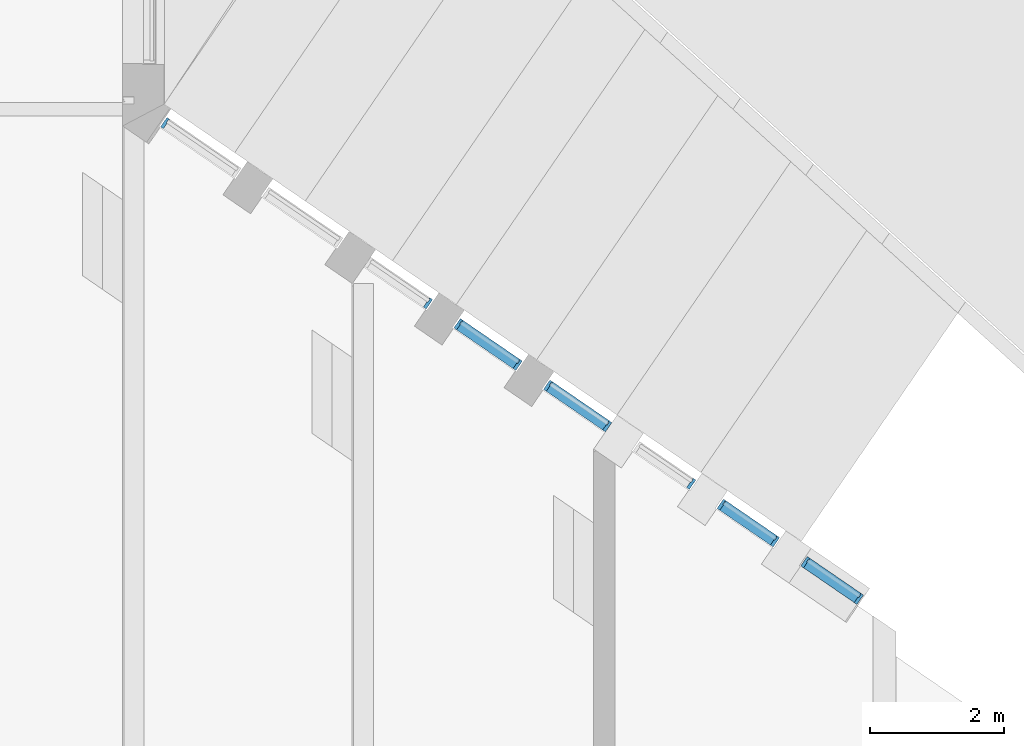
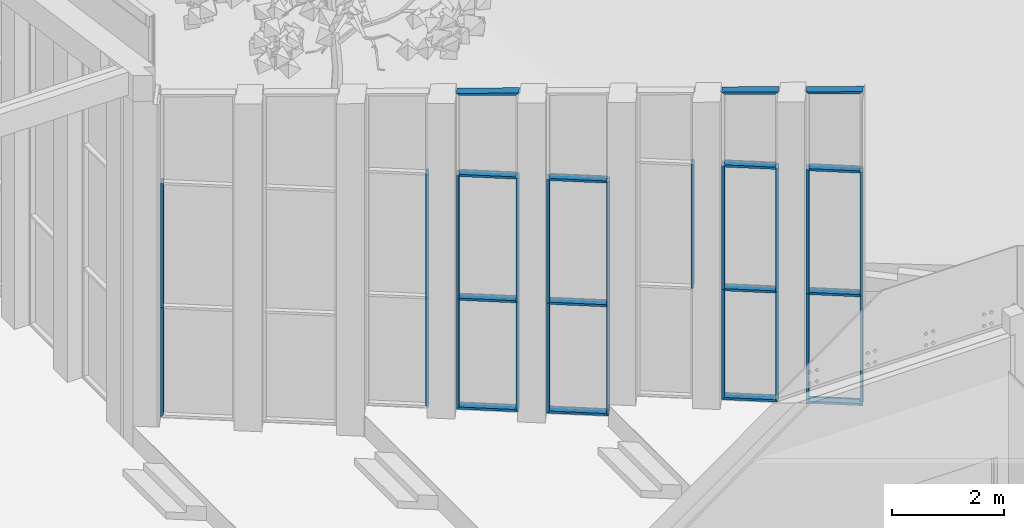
# One storey, part 9 of 246: 36 members, 7 elements without a shape of their own.
"""IFC2X3 building model written with IfcOpenShell, lengths in millimetres."""

from ifc_helpers import new_model, entity, si_unit, converted_unit, derived_unit, money_unit, direction, frame, origin_with_axes, place, context, subcontext, project, spatial, faceted_brep, source, transform, mapped, material, type_object, element, aggregate, save


model = new_model("IFC2X3")

# Units and contexts
model_context = context("Model", 3, precision=0.01, world=origin_with_axes(), true_north=direction((0.0, 1.0)))
body_context = subcontext(model_context, "Body", "Model", "MODEL_VIEW")
ifc_project = project(units=[si_unit("LENGTHUNIT", "METRE", prefix="MILLI"), si_unit("AREAUNIT", "SQUARE_METRE"), si_unit("VOLUMEUNIT", "CUBIC_METRE"), converted_unit("PLANEANGLEUNIT", "DEGREE", entity("IfcPlaneAngleMeasure", 0.0174532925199), si_unit("PLANEANGLEUNIT", "RADIAN"), dimensions=[0, 0, 0, 0, 0, 0, 0]), si_unit("SOLIDANGLEUNIT", "STERADIAN"), money_unit("EUR"), converted_unit("TIMEUNIT", "Year", entity("IfcTimeMeasure", 31556926.0), si_unit("TIMEUNIT", "SECOND"), dimensions=[0, 0, 1, 0, 0, 0, 0]), si_unit("MASSUNIT", "GRAM", prefix="KILO"), si_unit("THERMODYNAMICTEMPERATUREUNIT", "DEGREE_CELSIUS"), si_unit("LUMINOUSINTENSITYUNIT", "LUMEN"), si_unit("ENERGYUNIT", "JOULE", prefix="MEGA"), derived_unit("THERMALCONDUCTANCEUNIT", [(si_unit("POWERUNIT", "WATT"), 1), (si_unit("LENGTHUNIT", "METRE"), -1), (si_unit("THERMODYNAMICTEMPERATUREUNIT", "KELVIN"), -1)]), derived_unit("SPECIFICHEATCAPACITYUNIT", [(si_unit("ENERGYUNIT", "JOULE"), 1), (si_unit("MASSUNIT", "GRAM", prefix="KILO"), -1), (si_unit("THERMODYNAMICTEMPERATUREUNIT", "KELVIN"), -1)]), derived_unit("MASSDENSITYUNIT", [(si_unit("MASSUNIT", "GRAM", prefix="KILO"), 1), (si_unit("VOLUMEUNIT", "CUBIC_METRE"), -1)])], contexts=[model_context])

# Site, building, storey
site_placement = place(None, origin_with_axes())
site = spatial("IfcSite", under=ifc_project, at=site_placement, Name="L.Koidula tn 11b", CompositionType="ELEMENT")
building_placement = place(site_placement, origin_with_axes())
building = spatial("IfcBuilding", under=site, at=building_placement, Name="Rakvere Riigigümnaasium", CompositionType="ELEMENT")
storey_placement = place(building_placement, origin_with_axes())
storey = spatial("IfcBuildingStorey", under=building, at=storey_placement, Name="1.korrus 0,00", CompositionType="ELEMENT", Elevation=0.0)

# Curtain wall, member
curtain_wall_type = type_object("IfcCurtainWallType", Name="Curtain Wall Type", PredefinedType="NOTDEFINED")
curtain_wall_1_placement = place(storey_placement, frame((48188.9005026, 43426.6609741, 465.0), z_axis=(0.0, 0.0, 1.0), x_axis=(1.0, 0.0, 0.0)))
curtain_wall_1 = element("IfcCurtainWall", 1, at=curtain_wall_1_placement, inside=storey, type_object=curtain_wall_type, Name="KLF-06-29")
ifc_material = material(Name="Alumiiniumprofiil (RAL 7021)")
member_type_1 = type_object("IfcMemberType", Name="Boundary Frame 50 x 170", PredefinedType="MULLION")
shared_shape_1 = source(origin_with_axes(), body_context, "Body", "Brep", [
    faceted_brep([(-37.0, -26.0, 2700.00000012), (-50.0, -26.0, 2700.00000012), (-50.0, -124.0, 2700.00000012), (0.0, -124.0, 2700.00000012), (0.0, 46.0, 2700.00000012), (-50.0, 46.0, 2700.00000012), (-50.0, 26.0, 2700.00000012), (-37.0, 26.0, 2700.00000012), (-37.0, -26.0, -5.18836085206e-07), (-50.0, -26.0, -5.18836307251e-07), (-50.0, -124.0, -5.18836307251e-07), (0.0, -124.0, -5.18836307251e-07), (0.0, 46.0, -5.18836307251e-07), (-50.0, 46.0, -5.18836307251e-07), (-50.0, 26.0, -5.18836307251e-07), (-37.0, 26.0, -5.18836085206e-07)], [[[0, 1, 2, 3, 4, 5, 6, 7]], [[0, 8, 9, 1]], [[9, 10, 2, 1]], [[10, 11, 3, 2]], [[11, 12, 4, 3]], [[12, 13, 5, 4]], [[6, 5, 13, 14]], [[14, 15, 7, 6]], [[7, 15, 8, 0]], [[8, 15, 14, 13, 12, 11, 10, 9]]]),
])
member_1_placement = place(curtain_wall_1_placement, frame((-552.526290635, 378.965110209, 5100.0), z_axis=(-3.23467396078e-08, 2.21858890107e-08, -1.0), x_axis=(0.824666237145, -0.565619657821, -3.9224038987e-08)))
member_1 = element("IfcMember", 2, at=member_1_placement, type_object=member_type_1, material=ifc_material, Name="KLF-06-52-Profiilid", ObjectType="MULLION", context=body_context, shape_type="MappedRepresentation", body=[
    mapped(shared_shape_1, transform((0.0, 0.0, 0.0), x_axis=(-1.0, 0.0, 3.92240388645e-08), y_axis=(0.0, -1.0, 0.0), z_axis=(3.92240388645e-08, 0.0, 1.0))),
])

curtain_wall_2_placement = place(storey_placement, frame((51132.8497103, 41407.4731801, 929.821783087), z_axis=(0.0, 0.0, 1.0), x_axis=(1.0, 0.0, 0.0)))
curtain_wall_2 = element("IfcCurtainWall", 3, at=curtain_wall_2_placement, inside=storey, type_object=curtain_wall_type, Name="KLF-06-27")
member_2_placement = place(curtain_wall_2_placement, frame((461.813017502, -316.746956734, 2400.0000654), z_axis=(-8.02867764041e-09, 5.50668514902e-09, 1.0), x_axis=(-0.824666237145, 0.565619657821, -9.73566874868e-09)))
member_2 = element("IfcMember", 4, at=member_2_placement, type_object=member_type_1, material=ifc_material, Name="KLF-06-45-Profiilid", ObjectType="MULLION", context=body_context, shape_type="MappedRepresentation", body=[
    mapped(shared_shape_1, transform((0.0, 0.0, 0.0), x_axis=(-1.0, 0.0, -9.73566874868e-09), y_axis=(0.0, -1.0, 0.0), z_axis=(-9.73566874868e-09, 0.0, 1.0))),
])

curtain_wall_3_placement = place(storey_placement, frame((52468.8871131, 40491.1147045, 929.82179112), z_axis=(0.0, 0.0, 1.0), x_axis=(1.0, 0.0, 0.0)))
curtain_wall_3 = element("IfcCurtainWall", 5, at=curtain_wall_3_placement, inside=storey, type_object=curtain_wall_type, Name="KLF-06-26")
member_3_placement = place(curtain_wall_3_placement, frame((461.813622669, -316.746250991, 2400.00005736), z_axis=(-1.18364024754e-08, 8.11828760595e-09, 1.0), x_axis=(-0.824667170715, 0.565618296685, -1.43529445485e-08)))
member_3 = element("IfcMember", 6, at=member_3_placement, type_object=member_type_1, material=ifc_material, Name="KLF-06-44-Profiilid", ObjectType="MULLION", context=body_context, shape_type="MappedRepresentation", body=[
    mapped(shared_shape_1, transform((0.0, 0.0, 0.0), x_axis=(-1.0, 0.0, -1.43529445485e-08), y_axis=(0.0, -1.0, 0.0), z_axis=(-1.43529445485e-08, 0.0, 1.0))),
])

curtain_wall_4_placement = place(storey_placement, frame((53804.0228659, 39575.3763588, 929.821791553), z_axis=(0.0, 0.0, 1.0), x_axis=(1.0, 0.0, 0.0)))
curtain_wall_4 = element("IfcCurtainWall", 7, at=curtain_wall_4_placement, inside=storey, type_object=curtain_wall_type, Name="KLF-06-25")
member_4_placement = place(curtain_wall_4_placement, frame((461.813617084, -316.747367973, 2400.00005693), z_axis=(9.66272592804e-09, -6.62743999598e-09, 1.0), x_axis=(-0.824666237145, 0.565619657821, 1.17171341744e-08)))
member_4 = element("IfcMember", 8, at=member_4_placement, type_object=member_type_1, material=ifc_material, Name="KLF-06-51-Profiilid", ObjectType="MULLION", context=body_context, shape_type="MappedRepresentation", body=[
    mapped(shared_shape_1, transform((0.0, 0.0, 0.0), x_axis=(-1.0, 0.0, 1.17171341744e-08), y_axis=(0.0, -1.0, 0.0), z_axis=(1.17171341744e-08, 0.0, 1.0))),
])

curtain_wall_5_placement = place(storey_placement, frame((55097.3440674, 38688.315244, 1395.00000109), z_axis=(0.0, 0.0, 1.0), x_axis=(1.0, 0.0, 0.0)))
curtain_wall_5 = element("IfcCurtainWall", 9, at=curtain_wall_5_placement, inside=storey, type_object=curtain_wall_type, Name="KLF-06-24")
member_5_placement = place(curtain_wall_5_placement, frame((418.476266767, -287.02327336, 2400.00005693), z_axis=(-9.22828619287e-05, 6.32946984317e-05, 0.999999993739), x_axis=(-0.824666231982, 0.565619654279, -0.000111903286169)))
member_5 = element("IfcMember", 10, at=member_5_placement, type_object=member_type_1, material=ifc_material, Name="KLF-06-42-Profiilid", ObjectType="MULLION", context=body_context, shape_type="MappedRepresentation", body=[
    mapped(shared_shape_1, transform((0.0, 0.0, 0.0), x_axis=(-1.0, 0.0, 0.0), y_axis=(0.0, -1.0, 0.0), z_axis=(0.0, 0.0, 1.0))),
])
aggregate(curtain_wall_5, [member_5])

# Curtain wall, members
curtain_wall_6_placement = place(storey_placement, frame((57595.8829175, 36974.6265181, 1395.00000109), z_axis=(0.0, 0.0, 1.0), x_axis=(1.0, 0.0, 0.0)))
curtain_wall_6 = element("IfcCurtainWall", 11, at=curtain_wall_6_placement, inside=storey, type_object=curtain_wall_type, Name="KLF-06-22")
member_6_placement = place(curtain_wall_6_placement, frame((-418.518122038, 287.051980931, 5100.00005693), z_axis=(0.0, 0.0, -1.0), x_axis=(0.824666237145, -0.565619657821, 0.0)))
member_6 = element("IfcMember", 12, at=member_6_placement, type_object=member_type_1, material=ifc_material, Name="KLF-06-45-Profiilid", ObjectType="MULLION", context=body_context, shape_type="MappedRepresentation", body=[
    mapped(shared_shape_1, transform((0.0, 0.0, 0.0), x_axis=(-1.0, 0.0, 0.0), y_axis=(0.0, -1.0, 0.0), z_axis=(0.0, 0.0, 1.0))),
])
member_7_placement = place(curtain_wall_6_placement, frame((418.518130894, -287.051987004, 2400.00005693), z_axis=(-6.55946210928e-09, 4.49898291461e-09, 1.0), x_axis=(-0.824666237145, 0.565619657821, -7.95408011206e-09)))
member_7 = element("IfcMember", 13, at=member_7_placement, type_object=member_type_1, material=ifc_material, Name="KLF-06-41-Profiilid", ObjectType="MULLION", context=body_context, shape_type="MappedRepresentation", body=[
    mapped(shared_shape_1, transform((0.0, 0.0, 0.0), x_axis=(-1.0, 0.0, -7.95408011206e-09), y_axis=(0.0, -1.0, 0.0), z_axis=(-7.95408011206e-09, 0.0, 1.0))),
])

curtain_wall_7_placement = place(storey_placement, frame((56346.8798402, 37831.2873164, 1395.00000109), z_axis=(0.0, 0.0, 1.0), x_axis=(1.0, 0.0, 0.0)))
curtain_wall_7 = element("IfcCurtainWall", 14, at=curtain_wall_7_placement, inside=storey, type_object=curtain_wall_type, Name="KLF-06-23")
member_8_placement = place(curtain_wall_7_placement, frame((-418.518145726, 287.051997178, 5100.00005693), z_axis=(0.0, 0.0, -1.0), x_axis=(0.824666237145, -0.565619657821, 0.0)))
member_8 = element("IfcMember", 15, at=member_8_placement, type_object=member_type_1, material=ifc_material, Name="KLF-06-46-Profiilid", ObjectType="MULLION", context=body_context, shape_type="MappedRepresentation", body=[
    mapped(shared_shape_1, transform((0.0, 0.0, 0.0), x_axis=(-1.0, 0.0, 0.0), y_axis=(0.0, -1.0, 0.0), z_axis=(0.0, 0.0, 1.0))),
])
member_9_placement = place(curtain_wall_7_placement, frame((418.518130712, -287.051986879, 2400.00005693), z_axis=(1.11218754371e-08, -7.62823943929e-09, 1.0), x_axis=(-0.824666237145, 0.565619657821, 1.34865173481e-08)))
member_9 = element("IfcMember", 16, at=member_9_placement, type_object=member_type_1, material=ifc_material, Name="KLF-06-42-Profiilid", ObjectType="MULLION", context=body_context, shape_type="MappedRepresentation", body=[
    mapped(shared_shape_1, transform((0.0, 0.0, 0.0), x_axis=(-1.0, 0.0, 1.34865173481e-08), y_axis=(0.0, -1.0, 0.0), z_axis=(1.34865173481e-08, 0.0, 1.0))),
])

# Member
shared_shape_2 = source(origin_with_axes(), body_context, "Body", "Brep", [
    faceted_brep([(-37.0, -26.0, 2400.00000019), (-50.0, -26.0, 2400.00000019), (-50.0, -124.0, 2400.00000019), (0.0, -124.0, 2400.00000019), (0.0, 46.0, 2400.00000019), (-50.0, 46.0, 2400.00000019), (-50.0, 26.0, 2400.00000019), (-37.0, 26.0, 2400.00000019), (-37.0, -26.0, 37.0), (-50.0, -26.0, 50.0), (-50.0, -124.0, 50.0), (0.0, -124.0, 0.0), (0.0, 46.0, 0.0), (-50.0, 46.0, 50.0), (-50.0, 26.0, 50.0), (-37.0, 26.0, 37.0)], [[[0, 1, 2, 3, 4, 5, 6, 7]], [[0, 8, 9, 1]], [[9, 10, 2, 1]], [[2, 10, 11, 3]], [[3, 11, 12, 4]], [[4, 12, 13, 5]], [[6, 5, 13, 14]], [[14, 15, 7, 6]], [[7, 15, 8, 0]], [[8, 15, 14, 13, 12, 11, 10, 9]]]),
])
member_10_placement = place(curtain_wall_2_placement, frame((461.813017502, -316.746956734, 0.0), z_axis=(0.0, 0.0, 1.0), x_axis=(-0.824666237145, 0.565619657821, 0.0)))
member_10 = element("IfcMember", 17, at=member_10_placement, type_object=member_type_1, material=ifc_material, Name="KLF-06-44-Profiilid", ObjectType="MULLION", context=body_context, shape_type="MappedRepresentation", body=[
    mapped(shared_shape_2, transform((0.0, 0.0, 0.0), x_axis=(-1.0, 0.0, 0.0), y_axis=(0.0, -1.0, 0.0), z_axis=(0.0, 0.0, 1.0))),
])

aggregate(curtain_wall_2, [member_2, member_10])

member_11_placement = place(curtain_wall_3_placement, frame((461.813622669, -316.746250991, 0.0), z_axis=(0.0, 0.0, 1.0), x_axis=(-0.824667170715, 0.565618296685, 0.0)))
member_11 = element("IfcMember", 18, at=member_11_placement, type_object=member_type_1, material=ifc_material, Name="KLF-06-43-Profiilid", ObjectType="MULLION", context=body_context, shape_type="MappedRepresentation", body=[
    mapped(shared_shape_2, transform((0.0, 0.0, 0.0), x_axis=(-1.0, 0.0, 0.0), y_axis=(0.0, -1.0, 0.0), z_axis=(0.0, 0.0, 1.0))),
])

member_12_placement = place(curtain_wall_4_placement, frame((461.813617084, -316.747367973, 0.0), z_axis=(0.0, 0.0, 1.0), x_axis=(-0.824666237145, 0.565619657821, 0.0)))
member_12 = element("IfcMember", 19, at=member_12_placement, type_object=member_type_1, material=ifc_material, Name="KLF-06-50-Profiilid", ObjectType="MULLION", context=body_context, shape_type="MappedRepresentation", body=[
    mapped(shared_shape_2, transform((0.0, 0.0, 0.0), x_axis=(-1.0, 0.0, 0.0), y_axis=(0.0, -1.0, 0.0), z_axis=(0.0, 0.0, 1.0))),
])

member_13_placement = place(curtain_wall_6_placement, frame((418.518130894, -287.051987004, 0.0), z_axis=(0.0, 0.0, 1.0), x_axis=(-0.824666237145, 0.565619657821, 0.0)))
member_13 = element("IfcMember", 20, at=member_13_placement, type_object=member_type_1, material=ifc_material, Name="KLF-06-40-Profiilid", ObjectType="MULLION", context=body_context, shape_type="MappedRepresentation", body=[
    mapped(shared_shape_2, transform((0.0, 0.0, 0.0), x_axis=(-1.0, 0.0, 0.0), y_axis=(0.0, -1.0, 0.0), z_axis=(0.0, 0.0, 1.0))),
])

member_14_placement = place(curtain_wall_7_placement, frame((418.518130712, -287.051986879, 0.0), z_axis=(0.0, 0.0, 1.0), x_axis=(-0.824666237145, 0.565619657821, 0.0)))
member_14 = element("IfcMember", 21, at=member_14_placement, type_object=member_type_1, material=ifc_material, Name="KLF-06-41-Profiilid", ObjectType="MULLION", context=body_context, shape_type="MappedRepresentation", body=[
    mapped(shared_shape_2, transform((0.0, 0.0, 0.0), x_axis=(-1.0, 0.0, 0.0), y_axis=(0.0, -1.0, 0.0), z_axis=(0.0, 0.0, 1.0))),
])

shared_shape_3 = source(origin_with_axes(), body_context, "Body", "Brep", [
    faceted_brep([(-37.0, -26.0, 2362.99999837), (-50.0, -26.0, 2349.99999779), (-50.0, -124.0, 2349.99999779), (0.0, -124.0, 2400.0), (0.0, 46.0, 2400.0), (-50.0, 46.0, 2349.99999779), (-50.0, 26.0, 2349.99999779), (-37.0, 26.0, 2362.99999837), (-37.0, -26.0, -1.22574839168e-07), (-50.0, -26.0, -1.22575061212e-07), (-50.0, -124.0, -1.22575061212e-07), (0.0, -124.0, -1.22575061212e-07), (0.0, 46.0, -1.22575061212e-07), (-50.0, 46.0, -1.22575061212e-07), (-50.0, 26.0, -1.22575061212e-07), (-37.0, 26.0, -1.22574839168e-07)], [[[0, 1, 2, 3, 4, 5, 6, 7]], [[0, 8, 9, 1]], [[9, 10, 2, 1]], [[10, 11, 3, 2]], [[11, 12, 4, 3]], [[12, 13, 5, 4]], [[6, 5, 13, 14]], [[14, 15, 7, 6]], [[7, 15, 8, 0]], [[8, 15, 14, 13, 12, 11, 10, 9]]]),
])
member_15_placement = place(curtain_wall_1_placement, frame((-552.526377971, 378.965170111, 2400.0), z_axis=(-3.63900820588e-08, 2.49591221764e-08, -1.0), x_axis=(0.824666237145, -0.565619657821, -4.41270421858e-08)))
member_15 = element("IfcMember", 22, at=member_15_placement, type_object=member_type_1, material=ifc_material, Name="KLF-06-45-Profiilid", ObjectType="MULLION", context=body_context, shape_type="MappedRepresentation", body=[
    mapped(shared_shape_3, transform((0.0, 0.0, 0.0), x_axis=(-1.0, 0.0, 4.41270420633e-08), y_axis=(0.0, -1.0, 0.0), z_axis=(4.41270420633e-08, 0.0, 1.0))),
])

aggregate(curtain_wall_1, [member_1, member_15])

member_16_placement = place(curtain_wall_6_placement, frame((-418.518122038, 287.051980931, 2400.00005693), z_axis=(0.0, 0.0, -1.0), x_axis=(0.824666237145, -0.565619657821, 0.0)))
member_16 = element("IfcMember", 23, at=member_16_placement, type_object=member_type_1, material=ifc_material, Name="KLF-06-38-Profiilid", ObjectType="MULLION", context=body_context, shape_type="MappedRepresentation", body=[
    mapped(shared_shape_3, transform((0.0, 0.0, 0.0), x_axis=(-1.0, 0.0, 0.0), y_axis=(0.0, -1.0, 0.0), z_axis=(0.0, 0.0, 1.0))),
])

member_17_placement = place(curtain_wall_7_placement, frame((-418.518145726, 287.051997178, 2400.00005693), z_axis=(0.0, 0.0, -1.0), x_axis=(0.824666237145, -0.565619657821, 0.0)))
member_17 = element("IfcMember", 24, at=member_17_placement, type_object=member_type_1, material=ifc_material, Name="KLF-06-39-Profiilid", ObjectType="MULLION", context=body_context, shape_type="MappedRepresentation", body=[
    mapped(shared_shape_3, transform((0.0, 0.0, 0.0), x_axis=(-1.0, 0.0, 0.0), y_axis=(0.0, -1.0, 0.0), z_axis=(0.0, 0.0, 1.0))),
])

shared_shape_4 = source(origin_with_axes(), body_context, "Body", "Brep", [
    faceted_brep([(37.0, -26.0, 2400.0), (37.0, 26.0, 2400.0), (50.0, 26.0, 2400.0), (50.0, 46.0, 2400.0), (0.0, 46.0, 2400.0), (0.0, -124.0, 2400.0), (50.0, -124.0, 2400.0), (50.0, -26.0, 2400.0), (37.0, -26.0, 37.0), (37.0, 26.0, 37.0), (50.0, 26.0, 50.0), (50.0, 46.0, 50.0), (0.0, 46.0, 0.0), (0.0, -124.0, 0.0), (50.0, -124.0, 50.0), (50.0, -26.0, 50.0)], [[[0, 1, 2, 3, 4, 5, 6, 7]], [[1, 0, 8, 9]], [[10, 2, 1, 9]], [[2, 10, 11, 3]], [[4, 3, 11, 12]], [[5, 4, 12, 13]], [[6, 5, 13, 14]], [[15, 7, 6, 14]], [[0, 7, 15, 8]], [[8, 15, 14, 13, 12, 11, 10, 9]]]),
])
member_18_placement = place(curtain_wall_3_placement, frame((-461.813622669, 316.746250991, 0.0), z_axis=(0.0, 0.0, 1.0), x_axis=(-0.824667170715, 0.565618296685, 0.0)))
member_18 = element("IfcMember", 25, at=member_18_placement, type_object=member_type_1, material=ifc_material, Name="KLF-06-49-Profiilid", ObjectType="MULLION", context=body_context, shape_type="MappedRepresentation", body=[
    mapped(shared_shape_4, transform((0.0, 0.0, 0.0), x_axis=(-1.0, 0.0, 0.0), y_axis=(0.0, -1.0, 0.0), z_axis=(0.0, 0.0, 1.0))),
])

member_19_placement = place(curtain_wall_4_placement, frame((-461.813630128, 316.74737692, 0.0), z_axis=(0.0, 0.0, 1.0), x_axis=(-0.824666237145, 0.565619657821, 0.0)))
member_19 = element("IfcMember", 26, at=member_19_placement, type_object=member_type_1, material=ifc_material, Name="KLF-06-56-Profiilid", ObjectType="MULLION", context=body_context, shape_type="MappedRepresentation", body=[
    mapped(shared_shape_4, transform((0.0, 0.0, 0.0), x_axis=(-1.0, 0.0, 0.0), y_axis=(0.0, -1.0, 0.0), z_axis=(0.0, 0.0, 1.0))),
])

shared_shape_5 = source(origin_with_axes(), body_context, "Body", "Brep", [
    faceted_brep([(37.0, -26.0, 2700.0), (37.0, 26.0, 2700.0), (50.0, 26.0, 2700.0), (50.0, 46.0, 2700.0), (0.0, 46.0, 2700.0), (0.0, -124.0, 2700.0), (50.0, -124.0, 2700.0), (50.0, -26.0, 2700.0), (37.0, -26.0, 0.0), (37.0, 26.0, 0.0), (50.0, 26.0, 0.0), (50.0, 46.0, 0.0), (0.0, 46.0, 0.0), (0.0, -124.0, 0.0), (50.0, -124.0, 0.0), (50.0, -26.0, 0.0)], [[[0, 1, 2, 3, 4, 5, 6, 7]], [[1, 0, 8, 9]], [[10, 2, 1, 9]], [[2, 10, 11, 3]], [[12, 4, 3, 11]], [[13, 5, 4, 12]], [[14, 6, 5, 13]], [[15, 7, 6, 14]], [[0, 7, 15, 8]], [[8, 15, 14, 13, 12, 11, 10, 9]]]),
])
member_20_placement = place(curtain_wall_3_placement, frame((-461.813622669, 316.746250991, 2400.00005736), z_axis=(0.0, 0.0, 1.0), x_axis=(-0.824667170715, 0.565618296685, 0.0)))
member_20 = element("IfcMember", 27, at=member_20_placement, type_object=member_type_1, material=ifc_material, Name="KLF-06-48-Profiilid", ObjectType="MULLION", context=body_context, shape_type="MappedRepresentation", body=[
    mapped(shared_shape_5, transform((0.0, 0.0, 0.0), x_axis=(-1.0, 0.0, 0.0), y_axis=(0.0, -1.0, 0.0), z_axis=(0.0, 0.0, 1.0))),
])

member_21_placement = place(curtain_wall_4_placement, frame((-461.813630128, 316.74737692, 2400.00005693), z_axis=(0.0, 0.0, 1.0), x_axis=(-0.824666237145, 0.565619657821, 0.0)))
member_21 = element("IfcMember", 28, at=member_21_placement, type_object=member_type_1, material=ifc_material, Name="KLF-06-55-Profiilid", ObjectType="MULLION", context=body_context, shape_type="MappedRepresentation", body=[
    mapped(shared_shape_5, transform((0.0, 0.0, 0.0), x_axis=(-1.0, 0.0, 0.0), y_axis=(0.0, -1.0, 0.0), z_axis=(0.0, 0.0, 1.0))),
])

member_type_2 = type_object("IfcMemberType", Name="Transom Frame 50 x 170", PredefinedType="MULLION")
shared_shape_6 = source(origin_with_axes(), body_context, "Body", "Brep", [
    faceted_brep([(12.0, -26.0, 1069.9997261), (12.0, 26.0, 1069.99972784), (25.0, 26.0, 1069.99972784), (25.0, 46.0, 1069.99972851), (-25.0, 46.0, 1069.99972851), (-25.0, 26.0, 1069.99972784), (-12.0, 26.0, 1069.99972784), (-12.0, -26.0, 1069.9997261), (-25.0, -26.0, 1069.9997261), (-25.0, -124.0, 1069.99972282), (25.0, -124.0, 1069.99972282), (25.0, -26.0, 1069.9997261), (12.0, -26.0, 50.000000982), (12.0, 26.0, 49.999999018), (25.0, 26.0, 49.999999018), (25.0, 46.0, 49.9999982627), (-25.0, 46.0, 49.9999982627), (-25.0, 26.0, 49.999999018), (-12.0, 26.0, 49.999999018), (-12.0, -26.0, 50.000000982), (-25.0, -26.0, 50.000000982), (-25.0, -124.0, 50.0000046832), (25.0, -124.0, 50.0000046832), (25.0, -26.0, 50.000000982)], [[[0, 1, 2, 3, 4, 5, 6, 7, 8, 9, 10, 11]], [[0, 12, 13, 1]], [[1, 13, 14, 2]], [[14, 15, 3, 2]], [[4, 3, 15, 16]], [[17, 5, 4, 16]], [[5, 17, 18, 6]], [[7, 6, 18, 19]], [[8, 7, 19, 20]], [[8, 20, 21, 9]], [[10, 9, 21, 22]], [[11, 10, 22, 23]], [[11, 23, 12, 0]], [[13, 12, 23, 22, 21, 20, 19, 18, 17, 16, 15, 14]]]),
])
member_22_placement = place(curtain_wall_3_placement, frame((-461.813622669, 316.746250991, 2400.00005736), z_axis=(0.824667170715, -0.565618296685, 0.0), x_axis=(0.0, 0.0, 1.0)))
member_22 = element("IfcMember", 29, at=member_22_placement, type_object=member_type_2, material=ifc_material, Name="KLF-06-26-Profiilid", ObjectType="MULLION", context=body_context, shape_type="MappedRepresentation", body=[
    mapped(shared_shape_6, transform((0.0, 0.0, 0.0), x_axis=(-1.0, 0.0, 0.0), y_axis=(0.0, -1.0, 0.0), z_axis=(0.0, 0.0, 1.0))),
])

member_23_placement = place(curtain_wall_3_placement, frame((-461.813622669, 316.746250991, 5100.00005736), z_axis=(0.824667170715, -0.565618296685, 0.0), x_axis=(0.0, 0.0, 1.0)))
member_23 = element("IfcMember", 30, at=member_23_placement, type_object=member_type_2, material=ifc_material, Name="KLF-06-26-Profiilid", ObjectType="MULLION", context=body_context, shape_type="MappedRepresentation", body=[
    mapped(shared_shape_6, transform((0.0, 0.0, 0.0), x_axis=(-1.0, 0.0, 0.0), y_axis=(0.0, -1.0, 0.0), z_axis=(0.0, 0.0, 1.0))),
])

member_24_placement = place(curtain_wall_4_placement, frame((-461.813630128, 316.74737692, 2400.00005693), z_axis=(0.824666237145, -0.565619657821, 0.0), x_axis=(0.0, 0.0, 1.0)))
member_24 = element("IfcMember", 31, at=member_24_placement, type_object=member_type_2, material=ifc_material, Name="KLF-06-25-Profiilid", ObjectType="MULLION", context=body_context, shape_type="MappedRepresentation", body=[
    mapped(shared_shape_6, transform((0.0, 0.0, 0.0), x_axis=(-1.0, 0.0, 0.0), y_axis=(0.0, -1.0, 0.0), z_axis=(0.0, 0.0, 1.0))),
])

member_25_placement = place(curtain_wall_4_placement, frame((-461.813630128, 316.74737692, 5100.00005693), z_axis=(0.824666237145, -0.565619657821, 0.0), x_axis=(0.0, 0.0, 1.0)))
member_25 = element("IfcMember", 32, at=member_25_placement, type_object=member_type_2, material=ifc_material, Name="KLF-06-25-Profiilid", ObjectType="MULLION", context=body_context, shape_type="MappedRepresentation", body=[
    mapped(shared_shape_6, transform((0.0, 0.0, 0.0), x_axis=(-1.0, 0.0, 0.0), y_axis=(0.0, -1.0, 0.0), z_axis=(0.0, 0.0, 1.0))),
])

shared_shape_7 = source(origin_with_axes(), body_context, "Body", "Brep", [
    faceted_brep([(12.0, -26.0, 965.000005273), (12.0, 26.0, 965.000005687), (25.0, 26.0, 965.000005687), (25.0, 46.0, 965.000005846), (-25.0, 46.0, 965.000005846), (-25.0, 26.0, 965.000005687), (-12.0, 26.0, 965.000005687), (-12.0, -26.0, 965.000005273), (-25.0, -26.0, 965.000005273), (-25.0, -124.0, 965.000004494), (25.0, -124.0, 965.000004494), (25.0, -26.0, 965.000005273), (12.0, -26.0, 50.0), (12.0, 26.0, 50.0), (25.0, 26.0, 50.0), (25.0, 46.0, 50.0), (-25.0, 46.0, 50.0), (-25.0, 26.0, 50.0), (-12.0, 26.0, 50.0), (-12.0, -26.0, 50.0), (-25.0, -26.0, 50.0), (-25.0, -124.0, 50.0), (25.0, -124.0, 50.0), (25.0, -26.0, 50.0)], [[[0, 1, 2, 3, 4, 5, 6, 7, 8, 9, 10, 11]], [[0, 12, 13, 1]], [[1, 13, 14, 2]], [[14, 15, 3, 2]], [[4, 3, 15, 16]], [[17, 5, 4, 16]], [[5, 17, 18, 6]], [[7, 6, 18, 19]], [[8, 7, 19, 20]], [[8, 20, 21, 9]], [[10, 9, 21, 22]], [[11, 10, 22, 23]], [[11, 23, 12, 0]], [[13, 12, 23, 22, 21, 20, 19, 18, 17, 16, 15, 14]]]),
])
member_26_placement = place(curtain_wall_6_placement, frame((-418.518122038, 287.051980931, 5100.00005693), z_axis=(0.824666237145, -0.565619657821, 0.0), x_axis=(0.0, 0.0, 1.0)))
member_26 = element("IfcMember", 33, at=member_26_placement, type_object=member_type_2, material=ifc_material, Name="KLF-06-22-Profiilid", ObjectType="MULLION", context=body_context, shape_type="MappedRepresentation", body=[
    mapped(shared_shape_7, transform((0.0, 0.0, 0.0), x_axis=(-1.0, 0.0, 0.0), y_axis=(0.0, -1.0, 0.0), z_axis=(0.0, 0.0, 1.0))),
])

member_27_placement = place(curtain_wall_6_placement, frame((-418.518122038, 287.051980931, 2400.00005693), z_axis=(0.824666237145, -0.565619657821, 0.0), x_axis=(0.0, 0.0, 1.0)))
member_27 = element("IfcMember", 34, at=member_27_placement, type_object=member_type_2, material=ifc_material, Name="KLF-06-22-Profiilid", ObjectType="MULLION", context=body_context, shape_type="MappedRepresentation", body=[
    mapped(shared_shape_7, transform((0.0, 0.0, 0.0), x_axis=(-1.0, 0.0, 0.0), y_axis=(0.0, -1.0, 0.0), z_axis=(0.0, 0.0, 1.0))),
])

member_28_placement = place(curtain_wall_7_placement, frame((-418.518145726, 287.051997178, 5100.00005693), z_axis=(0.824666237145, -0.565619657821, 0.0), x_axis=(0.0, 0.0, 1.0)))
member_28 = element("IfcMember", 35, at=member_28_placement, type_object=member_type_2, material=ifc_material, Name="KLF-06-23-Profiilid", ObjectType="MULLION", context=body_context, shape_type="MappedRepresentation", body=[
    mapped(shared_shape_7, transform((0.0, 0.0, 0.0), x_axis=(-1.0, 0.0, 0.0), y_axis=(0.0, -1.0, 0.0), z_axis=(0.0, 0.0, 1.0))),
])

member_29_placement = place(curtain_wall_7_placement, frame((-418.518145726, 287.051997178, 2400.00005693), z_axis=(0.824666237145, -0.565619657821, 0.0), x_axis=(0.0, 0.0, 1.0)))
member_29 = element("IfcMember", 36, at=member_29_placement, type_object=member_type_2, material=ifc_material, Name="KLF-06-23-Profiilid", ObjectType="MULLION", context=body_context, shape_type="MappedRepresentation", body=[
    mapped(shared_shape_7, transform((0.0, 0.0, 0.0), x_axis=(-1.0, 0.0, 0.0), y_axis=(0.0, -1.0, 0.0), z_axis=(0.0, 0.0, 1.0))),
])

shared_shape_8 = source(origin_with_axes(), body_context, "Body", "Brep", [
    faceted_brep([(-37.0, -26.0, 1082.9999572), (-50.0, -26.0, 1069.9999572), (-50.0, -124.0, 1069.9999572), (0.0, -124.0, 1119.9999572), (0.0, 46.0, 1119.9999572), (-50.0, 46.0, 1069.9999572), (-50.0, 26.0, 1069.9999572), (-37.0, 26.0, 1082.9999572), (-37.0, -26.0, 37.0000015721), (-50.0, -26.0, 50.0000021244), (-50.0, -124.0, 50.0000021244), (0.0, -124.0, 0.0), (0.0, 46.0, 0.0), (-50.0, 46.0, 50.0000021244), (-50.0, 26.0, 50.0000021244), (-37.0, 26.0, 37.0000015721)], [[[0, 1, 2, 3, 4, 5, 6, 7]], [[0, 8, 9, 1]], [[9, 10, 2, 1]], [[2, 10, 11, 3]], [[3, 11, 12, 4]], [[4, 12, 13, 5]], [[6, 5, 13, 14]], [[14, 15, 7, 6]], [[7, 15, 8, 0]], [[8, 15, 14, 13, 12, 11, 10, 9]]]),
])
member_30_placement = place(curtain_wall_3_placement, frame((-461.813622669, 316.746250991, 0.0), z_axis=(0.824667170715, -0.565618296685, 0.0), x_axis=(0.0, 0.0, 1.0)))
member_30 = element("IfcMember", 37, at=member_30_placement, type_object=member_type_1, material=ifc_material, Name="KLF-06-42-Profiilid", ObjectType="MULLION", context=body_context, shape_type="MappedRepresentation", body=[
    mapped(shared_shape_8, transform((0.0, 0.0, 0.0), x_axis=(-1.0, 0.0, 0.0), y_axis=(0.0, -1.0, 0.0), z_axis=(0.0, 0.0, 1.0))),
])

member_31_placement = place(curtain_wall_4_placement, frame((-461.813630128, 316.74737692, 0.0), z_axis=(0.824666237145, -0.565619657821, 0.0), x_axis=(0.0, 0.0, 1.0)))
member_31 = element("IfcMember", 38, at=member_31_placement, type_object=member_type_1, material=ifc_material, Name="KLF-06-49-Profiilid", ObjectType="MULLION", context=body_context, shape_type="MappedRepresentation", body=[
    mapped(shared_shape_8, transform((0.0, 0.0, 0.0), x_axis=(-1.0, 0.0, 0.0), y_axis=(0.0, -1.0, 0.0), z_axis=(0.0, 0.0, 1.0))),
])

aggregate(curtain_wall_4, [member_31, member_19, member_21, member_24, member_25, member_4, member_12])

shared_shape_9 = source(origin_with_axes(), body_context, "Body", "Brep", [
    faceted_brep([(-37.0, -26.0, 1087.11023729), (-50.0, -26.0, 1074.85997125), (-50.0, -124.0, 1074.85997125), (0.0, -124.0, 1121.97637911), (0.0, 46.0, 1121.97637911), (-50.0, 46.0, 1074.85997125), (-50.0, 26.0, 1074.85997125), (-37.0, 26.0, 1087.11023729), (-37.0, -26.0, 39.2644550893), (-50.0, -26.0, 53.060074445), (-50.0, -124.0, 53.060074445), (0.0, -124.0, 0.0), (0.0, 46.0, 0.0), (-50.0, 46.0, 53.060074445), (-50.0, 26.0, 53.060074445), (-37.0, 26.0, 39.2644550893)], [[[0, 1, 2, 3, 4, 5, 6, 7]], [[0, 8, 9, 1]], [[9, 10, 2, 1]], [[2, 10, 11, 3]], [[3, 11, 12, 4]], [[4, 12, 13, 5]], [[6, 5, 13, 14]], [[14, 15, 7, 6]], [[7, 15, 8, 0]], [[8, 15, 14, 13, 12, 11, 10, 9]]]),
])
member_32_placement = place(curtain_wall_3_placement, frame((461.813542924, -316.746196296, 6955.73843058), z_axis=(-0.823214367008, 0.564621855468, -0.059331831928), x_axis=(0.0489290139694, -0.0335591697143, -0.998238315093)))
member_32 = element("IfcMember", 39, at=member_32_placement, type_object=member_type_1, material=ifc_material, Name="KLF-06-46-Profiilid", ObjectType="MULLION", context=body_context, shape_type="MappedRepresentation", body=[
    mapped(shared_shape_9, transform((0.0, 0.0, 0.0), x_axis=(-1.0, 0.0, 0.0), y_axis=(0.0, -1.0, 0.0), z_axis=(0.0, 0.0, 1.0))),
])

aggregate(curtain_wall_3, [member_30, member_18, member_20, member_22, member_23, member_3, member_11, member_32])

shared_shape_10 = source(origin_with_axes(), body_context, "Body", "Brep", [
    faceted_brep([(-37.0, -26.0, 978.000026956), (-50.0, -26.0, 965.000026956), (-50.0, -124.0, 965.000026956), (0.0, -124.0, 1015.00002696), (0.0, 46.0, 1015.00002696), (-50.0, 46.0, 965.000026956), (-50.0, 26.0, 965.000026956), (-37.0, 26.0, 978.000026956), (-37.0, -26.0, 37.0), (-50.0, -26.0, 50.0), (-50.0, -124.0, 50.0), (0.0, -124.0, 0.0), (0.0, 46.0, 0.0), (-50.0, 46.0, 50.0), (-50.0, 26.0, 50.0), (-37.0, 26.0, 37.0)], [[[0, 1, 2, 3, 4, 5, 6, 7]], [[0, 8, 9, 1]], [[9, 10, 2, 1]], [[2, 10, 11, 3]], [[3, 11, 12, 4]], [[4, 12, 13, 5]], [[6, 5, 13, 14]], [[14, 15, 7, 6]], [[7, 15, 8, 0]], [[8, 15, 14, 13, 12, 11, 10, 9]]]),
])
member_33_placement = place(curtain_wall_6_placement, frame((-418.518122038, 287.051980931, 0.0), z_axis=(0.824666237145, -0.565619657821, 0.0), x_axis=(0.0, 0.0, 1.0)))
member_33 = element("IfcMember", 40, at=member_33_placement, type_object=member_type_1, material=ifc_material, Name="KLF-06-39-Profiilid", ObjectType="MULLION", context=body_context, shape_type="MappedRepresentation", body=[
    mapped(shared_shape_10, transform((0.0, 0.0, 0.0), x_axis=(-1.0, 0.0, 0.0), y_axis=(0.0, -1.0, 0.0), z_axis=(0.0, 0.0, 1.0))),
])

member_34_placement = place(curtain_wall_7_placement, frame((-418.518145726, 287.051997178, 0.0), z_axis=(0.824666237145, -0.565619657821, 0.0), x_axis=(0.0, 0.0, 1.0)))
member_34 = element("IfcMember", 41, at=member_34_placement, type_object=member_type_1, material=ifc_material, Name="KLF-06-40-Profiilid", ObjectType="MULLION", context=body_context, shape_type="MappedRepresentation", body=[
    mapped(shared_shape_10, transform((0.0, 0.0, 0.0), x_axis=(-1.0, 0.0, 0.0), y_axis=(0.0, -1.0, 0.0), z_axis=(0.0, 0.0, 1.0))),
])

shared_shape_11 = source(origin_with_axes(), body_context, "Body", "Brep", [
    faceted_brep([(-37.0, -26.0, 981.925092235), (-50.0, -26.0, 969.674824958), (-50.0, -124.0, 969.674824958), (0.0, -124.0, 1016.79123756), (0.0, 46.0, 1016.79123756), (-50.0, 46.0, 969.674824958), (-50.0, 26.0, 969.674824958), (-37.0, 26.0, 981.925092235), (-37.0, -26.0, 39.2644486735), (-50.0, -26.0, 53.060065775), (-50.0, -124.0, 53.060065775), (0.0, -124.0, 0.0), (0.0, 46.0, 0.0), (-50.0, 46.0, 53.060065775), (-50.0, 26.0, 53.060065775), (-37.0, 26.0, 39.2644486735)], [[[0, 1, 2, 3, 4, 5, 6, 7]], [[0, 8, 9, 1]], [[9, 10, 2, 1]], [[2, 10, 11, 3]], [[3, 11, 12, 4]], [[4, 12, 13, 5]], [[6, 5, 13, 14]], [[14, 15, 7, 6]], [[7, 15, 8, 0]], [[8, 15, 14, 13, 12, 11, 10, 9]]]),
])
member_35_placement = place(curtain_wall_6_placement, frame((418.518101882, -287.051967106, 6856.95984889), z_axis=(-0.823213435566, 0.564623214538, -0.0593318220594), x_axis=(0.0489289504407, -0.0335592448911, -0.99823831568)))
member_35 = element("IfcMember", 42, at=member_35_placement, type_object=member_type_1, material=ifc_material, Name="KLF-06-43-Profiilid", ObjectType="MULLION", context=body_context, shape_type="MappedRepresentation", body=[
    mapped(shared_shape_11, transform((0.0, 0.0, 0.0), x_axis=(-1.0, 0.0, 0.0), y_axis=(0.0, -1.0, 0.0), z_axis=(0.0, 0.0, 1.0))),
])

aggregate(curtain_wall_6, [member_6, member_16, member_26, member_27, member_33, member_7, member_13, member_35])

member_36_placement = place(curtain_wall_7_placement, frame((418.518147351, -287.051998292, 6766.93987352), z_axis=(-0.823213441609, 0.564623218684, -0.0593316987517), x_axis=(0.0489288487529, -0.0335591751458, -0.998238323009)))
member_36 = element("IfcMember", 43, at=member_36_placement, type_object=member_type_1, material=ifc_material, Name="KLF-06-44-Profiilid", ObjectType="MULLION", context=body_context, shape_type="MappedRepresentation", body=[
    mapped(shared_shape_11, transform((0.0, 0.0, 0.0), x_axis=(-1.0, 0.0, 0.0), y_axis=(0.0, -1.0, 0.0), z_axis=(0.0, 0.0, 1.0))),
])

aggregate(curtain_wall_7, [member_8, member_17, member_28, member_29, member_34, member_9, member_14, member_36])

save(model, "model.ifc")
